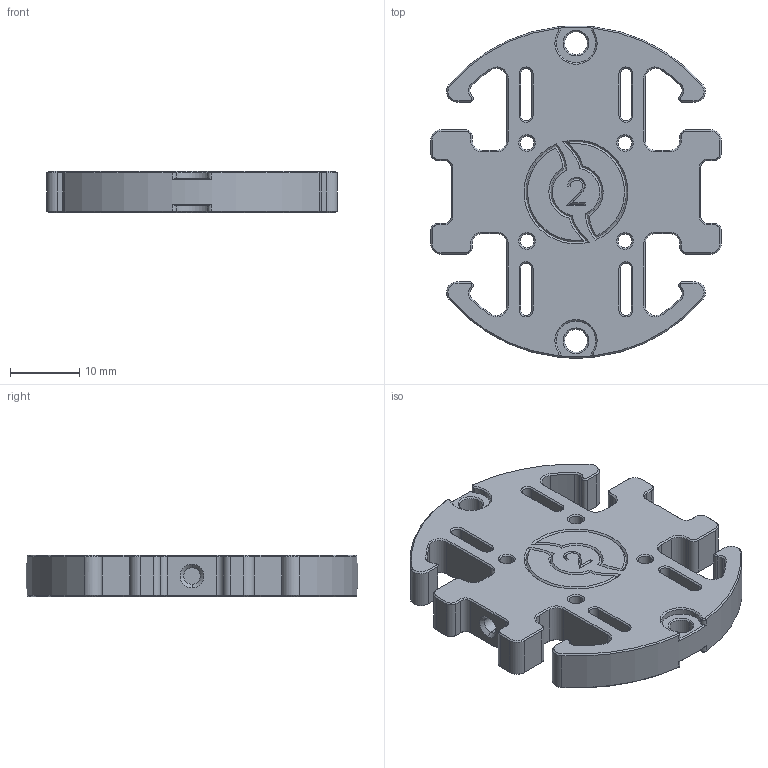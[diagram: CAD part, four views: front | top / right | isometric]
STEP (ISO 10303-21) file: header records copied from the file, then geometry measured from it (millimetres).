
FILE_DESCRIPTION (( 'STEP AP214' ), '1' );
FILE_NAME ('BR-103131-200_Rev_0.step', '2024-12-10T18:59:24', ( '' ), ( '' ), 'SwSTEP 2.0', 'SolidWorks 2024', '' );
FILE_SCHEMA (( 'AUTOMOTIVE_DESIGN' ));
Length unit declared in the file: millimetre
Products named in the file (1): BR-103131-200_Rev_0
Bounding box: 42 x 47.96 x 6 mm (x, y, z)
Volume: 7384.4 mm3; surface area: 4921.7 mm2
Topology: 1 solids, 1 shells, 450 faces, 1071 edges, 628 vertices
Faces by surface type: cone 192, plane 144, cylinder 100, bspline 14
Entity records: 14014 total; most frequent: CARTESIAN_POINT 3482, DIRECTION 2297, ORIENTED_EDGE 2142, EDGE_CURVE 1071, AXIS2_PLACEMENT_3D 851, VERTEX_POINT 628, LINE 595, VECTOR 595
